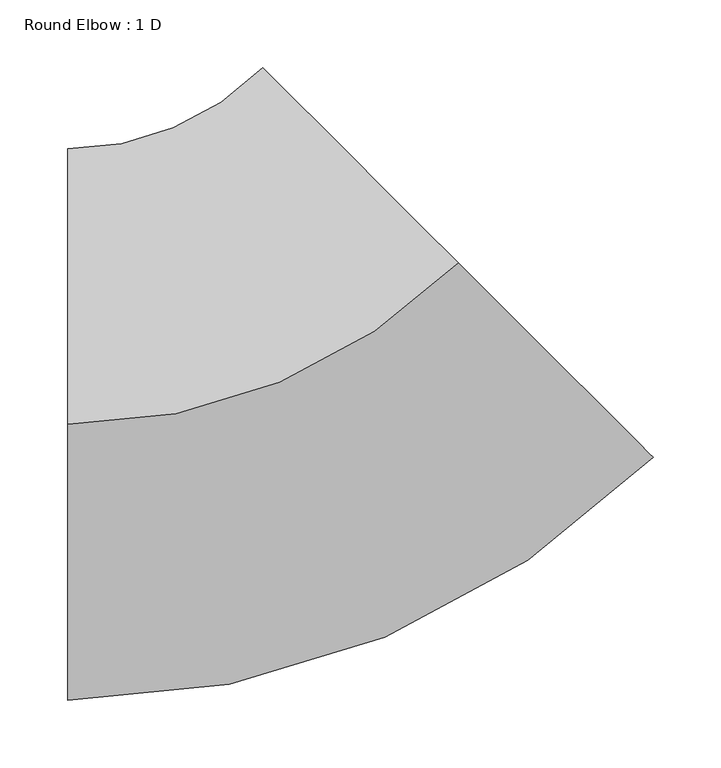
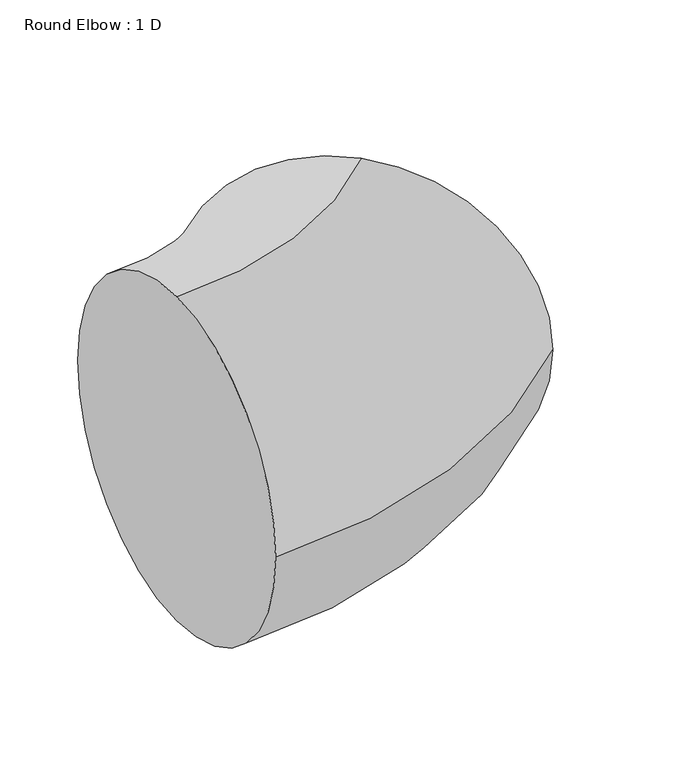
"""IFC4 building model written with IfcOpenShell, lengths in millimetres: duct fitting geometry, Round Elbow : 1 D."""

from ifc_helpers import new_model, si_unit, point, frame, origin, place, context, project, spatial, circle_curve, ellipse_curve, trimmed, source, transform, mapped, element, save
from ifc_brep_helpers import plane_surface, revolved_surface, advanced_brep


def round_elbow_1_d_882dd61f(model_context):
    return source(origin(), model_context, "Body", "AdvancedBrep", [
        advanced_brep(
        [(-168.5756608, 0.0, 203.2), (-168.5756608, 203.2, 0.0), (-168.5756608, 0.0, -203.2), (-168.5756608, -203.2, 0.0), (119.0811531, 119.3207123, 203.2), (262.9095601, -24.2189315, 0.0), (119.0811531, 119.3207123, -203.2), (-24.7472539, 262.8603562, 0.0)],
        [
            (0, 1, circle_curve(frame((-168.5756608, 0.0, 0.0), z_axis=(-1.0, 0.0, 0.0), x_axis=(0.0, 1.0, 0.0)), 203.2)),
            (1, 2, circle_curve(frame((-168.5756608, 0.0, 0.0), z_axis=(-1.0, 0.0, 0.0), x_axis=(0.0, 1.0, 0.0)), 203.2)),
            (2, 3, circle_curve(frame((-168.5756608, 0.0, 0.0), z_axis=(-1.0, 0.0, 0.0), x_axis=(0.0, 1.0, 0.0)), 203.2)),
            (3, 0, circle_curve(frame((-168.5756608, 0.0, 0.0), z_axis=(-1.0, 0.0, 0.0), x_axis=(0.0, 1.0, 0.0)), 203.2)),
            (4, 5, circle_curve(frame((119.0811531, 119.3207123, 0.0), z_axis=(0.7063958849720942, 0.7078169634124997, 0.0), x_axis=(-0.7078169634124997, 0.7063958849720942, 0.0)), 203.2)),
            (5, 6, circle_curve(frame((119.0811531, 119.3207123, 0.0), z_axis=(0.7063958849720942, 0.7078169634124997, 0.0), x_axis=(-0.7078169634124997, 0.7063958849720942, 0.0)), 203.2)),
            (6, 7, circle_curve(frame((119.0811531, 119.3207123, 0.0), z_axis=(0.7063958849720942, 0.7078169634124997, 0.0), x_axis=(-0.7078169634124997, 0.7063958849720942, 0.0)), 203.2)),
            (7, 4, circle_curve(frame((119.0811531, 119.3207123, 0.0), z_axis=(0.7063958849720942, 0.7078169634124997, 0.0), x_axis=(-0.7078169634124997, 0.7063958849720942, 0.0)), 203.2)),
            (7, 1, circle_curve(frame((-168.5756608, 406.4, 0.0), z_axis=(0.0, 0.0, -1.0), x_axis=(0.0, -1.0, 0.0)), 203.2)),
            (0, 4, circle_curve(frame((-168.5756608, 406.4, 203.2), z_axis=(0.0, 0.0, 1.0), x_axis=(0.0, -1.0, 0.0)), 406.4)),
            (6, 2, circle_curve(frame((-168.5756608, 406.4, -203.2), z_axis=(0.0, 0.0, -1.0), x_axis=(0.0, -1.0, 0.0)), 406.4)),
            (5, 3, circle_curve(frame((-168.5756608, 406.4, 0.0), z_axis=(0.0, 0.0, -1.0), x_axis=(0.0, -1.0, 0.0)), 609.6)),
        ],
        [
            plane_surface(frame((-168.5756608, 0.0, 0.0), z_axis=(-1.0, 0.0, 0.0), x_axis=(0.0, 0.0, 1.0))),
            plane_surface(frame((119.0811531, 119.3207123, 0.0), z_axis=(0.7063958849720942, 0.7078169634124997, 0.0), x_axis=(0.0, 0.0, 1.0))),
            revolved_surface(trimmed(ellipse_curve(frame((-168.5756608, 0.0, 0.0), z_axis=(-1.0, 0.0, 0.0), x_axis=(0.0, 1.0, 0.0)), 203.2, 203.2), [point((-168.5756608, 0.0, 203.2))], [point((-168.5756608, 203.2, 0.0))], True, "CARTESIAN"), (-168.5756608, 406.4, 0.0), (0.0, 0.0, 1.0)),
            revolved_surface(trimmed(ellipse_curve(frame((-168.5756608, 0.0, 0.0), z_axis=(-1.0, 0.0, 0.0), x_axis=(0.0, 1.0, 0.0)), 203.2, 203.2), [point((-168.5756608, 203.2, 0.0))], [point((-168.5756608, 0.0, -203.2))], True, "CARTESIAN"), (-168.5756608, 406.4, 0.0), (0.0, 0.0, 1.0)),
            revolved_surface(trimmed(ellipse_curve(frame((-168.5756608, 0.0, 0.0), z_axis=(-1.0, 0.0, 0.0), x_axis=(0.0, 1.0, 0.0)), 203.2, 203.2), [point((-168.5756608, 0.0, -203.2))], [point((-168.5756608, -203.2, 0.0))], True, "CARTESIAN"), (-168.5756608, 406.4, 0.0), (0.0, 0.0, 1.0)),
            revolved_surface(trimmed(ellipse_curve(frame((-168.5756608, 0.0, 0.0), z_axis=(-1.0, 0.0, 0.0), x_axis=(0.0, 1.0, 0.0)), 203.2, 203.2), [point((-168.5756608, -203.2, 0.0))], [point((-168.5756608, 0.0, 203.2))], True, "CARTESIAN"), (-168.5756608, 406.4, 0.0), (0.0, 0.0, 1.0)),
        ],
        [
            (0, [[1, 2, 3, 4]]),
            (1, [[5, 6, 7, 8]]),
            (2, [[9, -1, 10, -8]]),
            (3, [[11, -2, -9, -7]]),
            (4, [[12, -3, -11, -6]]),
            (5, [[-10, -4, -12, -5]]),
        ],
    ),
    ])


if __name__ == "__main__":
    model = new_model("IFC4")
    model_context = context("Model", 3, world=origin())
    ifc_project = project(units=[si_unit("LENGTHUNIT", "METRE", prefix="MILLI")], contexts=[model_context])
    site = spatial("IfcSite", under=ifc_project)
    building = spatial("IfcBuilding", under=site)
    placement = place(None, origin())
    round_elbow_1_d_shape = round_elbow_1_d_882dd61f(model_context)
    element("IfcDuctFitting", 1, ObjectType="Round Elbow : 1 D", at=placement, inside=building, context=model_context, shape_type="MappedRepresentation", body=[
        mapped(round_elbow_1_d_shape, transform((0.0, 0.0, 0.0), x_axis=(1.0, 0.0, 0.0), y_axis=(0.0, 1.0, 0.0), z_axis=(0.0, 0.0, 1.0))),
    ])
    save(model, "model.ifc")
